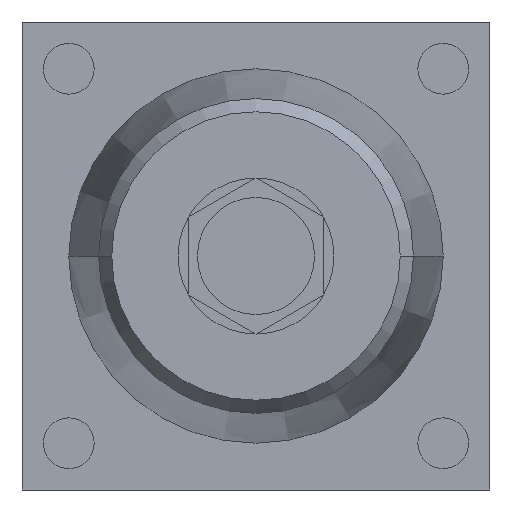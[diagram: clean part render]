
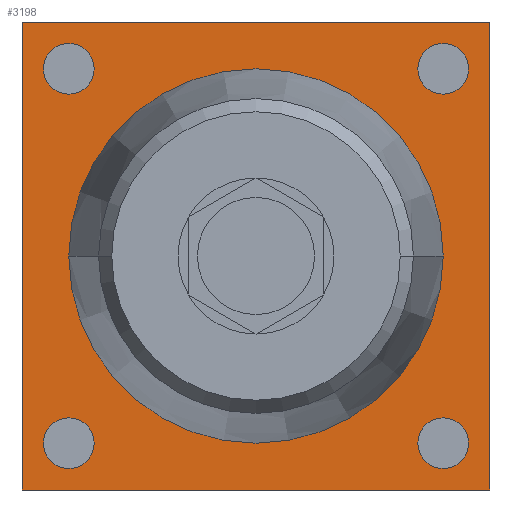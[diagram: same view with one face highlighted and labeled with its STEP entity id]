
A CAD part, front view. The second image highlights one B-rep face of the part: STEP entity #3198.
In plain terms, the highlighted planar face has unit normal (0, -1, 0).
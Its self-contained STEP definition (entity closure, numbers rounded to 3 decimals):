
#65=DIRECTION('',(1.,0.,0.));
#66=VECTOR('',#65,60.);
#67=CARTESIAN_POINT('',(-30.,-21.25,-30.));
#68=LINE('',#67,#66);
#183=DIRECTION('',(0.,0.,1.));
#184=VECTOR('',#183,60.);
#185=CARTESIAN_POINT('',(30.,-21.25,-30.));
#186=LINE('',#185,#184);
#303=DIRECTION('',(1.,0.,0.));
#304=VECTOR('',#303,60.);
#305=CARTESIAN_POINT('',(-30.,-21.25,30.));
#306=LINE('',#305,#304);
#951=DIRECTION('',(0.,0.,1.));
#952=VECTOR('',#951,60.);
#953=CARTESIAN_POINT('',(-30.,-21.25,-30.));
#954=LINE('',#953,#952);
#955=CARTESIAN_POINT('',(0.,-21.25,0.));
#956=DIRECTION('',(0.,1.,0.));
#957=DIRECTION('',(-1.,0.,0.));
#958=AXIS2_PLACEMENT_3D('',#955,#956,#957);
#960=CARTESIAN_POINT('',(0.,-21.25,0.));
#961=DIRECTION('',(0.,1.,0.));
#962=DIRECTION('',(1.,0.,0.));
#963=AXIS2_PLACEMENT_3D('',#960,#961,#962);
#965=CARTESIAN_POINT('',(24.,-21.25,-24.));
#966=DIRECTION('',(0.,-1.,0.));
#967=DIRECTION('',(-1.,0.,0.));
#968=AXIS2_PLACEMENT_3D('',#965,#966,#967);
#970=CARTESIAN_POINT('',(24.,-21.25,-24.));
#971=DIRECTION('',(0.,-1.,0.));
#972=DIRECTION('',(1.,0.,0.));
#973=AXIS2_PLACEMENT_3D('',#970,#971,#972);
#975=CARTESIAN_POINT('',(-24.,-21.25,-24.));
#976=DIRECTION('',(0.,-1.,0.));
#977=DIRECTION('',(-1.,0.,0.));
#978=AXIS2_PLACEMENT_3D('',#975,#976,#977);
#980=CARTESIAN_POINT('',(-24.,-21.25,-24.));
#981=DIRECTION('',(0.,-1.,0.));
#982=DIRECTION('',(1.,0.,0.));
#983=AXIS2_PLACEMENT_3D('',#980,#981,#982);
#985=CARTESIAN_POINT('',(-24.,-21.25,24.));
#986=DIRECTION('',(0.,-1.,0.));
#987=DIRECTION('',(-1.,0.,0.));
#988=AXIS2_PLACEMENT_3D('',#985,#986,#987);
#990=CARTESIAN_POINT('',(-24.,-21.25,24.));
#991=DIRECTION('',(0.,-1.,0.));
#992=DIRECTION('',(1.,0.,0.));
#993=AXIS2_PLACEMENT_3D('',#990,#991,#992);
#995=CARTESIAN_POINT('',(24.,-21.25,24.));
#996=DIRECTION('',(0.,-1.,0.));
#997=DIRECTION('',(-1.,0.,0.));
#998=AXIS2_PLACEMENT_3D('',#995,#996,#997);
#1000=CARTESIAN_POINT('',(24.,-21.25,24.));
#1001=DIRECTION('',(0.,-1.,0.));
#1002=DIRECTION('',(1.,0.,0.));
#1003=AXIS2_PLACEMENT_3D('',#1000,#1001,#1002);
#1355=CARTESIAN_POINT('',(-30.,-21.25,-30.));
#1356=CARTESIAN_POINT('',(30.,-21.25,-30.));
#1357=VERTEX_POINT('',#1355);
#1358=VERTEX_POINT('',#1356);
#1363=CARTESIAN_POINT('',(-30.,-21.25,30.));
#1364=CARTESIAN_POINT('',(30.,-21.25,30.));
#1365=VERTEX_POINT('',#1363);
#1366=VERTEX_POINT('',#1364);
#1399=CARTESIAN_POINT('',(-24.,-21.25,0.));
#1400=CARTESIAN_POINT('',(24.,-21.25,0.));
#1401=VERTEX_POINT('',#1399);
#1402=VERTEX_POINT('',#1400);
#1527=CARTESIAN_POINT('',(20.75,-21.25,-24.));
#1528=CARTESIAN_POINT('',(27.25,-21.25,-24.));
#1529=VERTEX_POINT('',#1527);
#1530=VERTEX_POINT('',#1528);
#1531=CARTESIAN_POINT('',(-27.25,-21.25,-24.));
#1532=CARTESIAN_POINT('',(-20.75,-21.25,-24.));
#1533=VERTEX_POINT('',#1531);
#1534=VERTEX_POINT('',#1532);
#1535=CARTESIAN_POINT('',(-27.25,-21.25,24.));
#1536=CARTESIAN_POINT('',(-20.75,-21.25,24.));
#1537=VERTEX_POINT('',#1535);
#1538=VERTEX_POINT('',#1536);
#1539=CARTESIAN_POINT('',(20.75,-21.25,24.));
#1540=CARTESIAN_POINT('',(27.25,-21.25,24.));
#1541=VERTEX_POINT('',#1539);
#1542=VERTEX_POINT('',#1540);
#3157=CARTESIAN_POINT('',(-30.,-21.25,-30.));
#3158=DIRECTION('',(0.,-1.,0.));
#3159=DIRECTION('',(1.,0.,0.));
#3160=AXIS2_PLACEMENT_3D('',#3157,#3158,#3159);
#3161=PLANE('',#3160);
#3162=ORIENTED_EDGE('',*,*,#1706,.F.);
#3163=ORIENTED_EDGE('',*,*,#2367,.T.);
#3164=ORIENTED_EDGE('',*,*,#2056,.T.);
#3165=ORIENTED_EDGE('',*,*,#1923,.F.);
#3166=EDGE_LOOP('',(#3162,#3163,#3164,#3165));
#3167=FACE_OUTER_BOUND('',#3166,.F.);
#3169=ORIENTED_EDGE('',*,*,#3168,.F.);
#3171=ORIENTED_EDGE('',*,*,#3170,.F.);
#3172=EDGE_LOOP('',(#3169,#3171));
#3173=FACE_BOUND('',#3172,.F.);
#3175=ORIENTED_EDGE('',*,*,#3174,.T.);
#3177=ORIENTED_EDGE('',*,*,#3176,.T.);
#3178=EDGE_LOOP('',(#3175,#3177));
#3179=FACE_BOUND('',#3178,.F.);
#3181=ORIENTED_EDGE('',*,*,#3180,.T.);
#3183=ORIENTED_EDGE('',*,*,#3182,.T.);
#3184=EDGE_LOOP('',(#3181,#3183));
#3185=FACE_BOUND('',#3184,.F.);
#3187=ORIENTED_EDGE('',*,*,#3186,.T.);
#3189=ORIENTED_EDGE('',*,*,#3188,.T.);
#3190=EDGE_LOOP('',(#3187,#3189));
#3191=FACE_BOUND('',#3190,.F.);
#3193=ORIENTED_EDGE('',*,*,#3192,.T.);
#3195=ORIENTED_EDGE('',*,*,#3194,.T.);
#3196=EDGE_LOOP('',(#3193,#3195));
#3197=FACE_BOUND('',#3196,.F.);
#959=CIRCLE('',#958,24.);
#964=CIRCLE('',#963,24.);
#969=CIRCLE('',#968,3.25);
#974=CIRCLE('',#973,3.25);
#979=CIRCLE('',#978,3.25);
#984=CIRCLE('',#983,3.25);
#989=CIRCLE('',#988,3.25);
#994=CIRCLE('',#993,3.25);
#999=CIRCLE('',#998,3.25);
#1004=CIRCLE('',#1003,3.25);
#1706=EDGE_CURVE('',#1357,#1358,#68,.T.);
#1923=EDGE_CURVE('',#1358,#1366,#186,.T.);
#2056=EDGE_CURVE('',#1365,#1366,#306,.T.);
#2367=EDGE_CURVE('',#1357,#1365,#954,.T.);
#3168=EDGE_CURVE('',#1401,#1402,#959,.T.);
#3170=EDGE_CURVE('',#1402,#1401,#964,.T.);
#3174=EDGE_CURVE('',#1529,#1530,#969,.T.);
#3176=EDGE_CURVE('',#1530,#1529,#974,.T.);
#3180=EDGE_CURVE('',#1533,#1534,#979,.T.);
#3182=EDGE_CURVE('',#1534,#1533,#984,.T.);
#3186=EDGE_CURVE('',#1537,#1538,#989,.T.);
#3188=EDGE_CURVE('',#1538,#1537,#994,.T.);
#3192=EDGE_CURVE('',#1541,#1542,#999,.T.);
#3194=EDGE_CURVE('',#1542,#1541,#1004,.T.);
#3198=ADVANCED_FACE('',(#3167,#3173,#3179,#3185,#3191,#3197),#3161,.T.);
